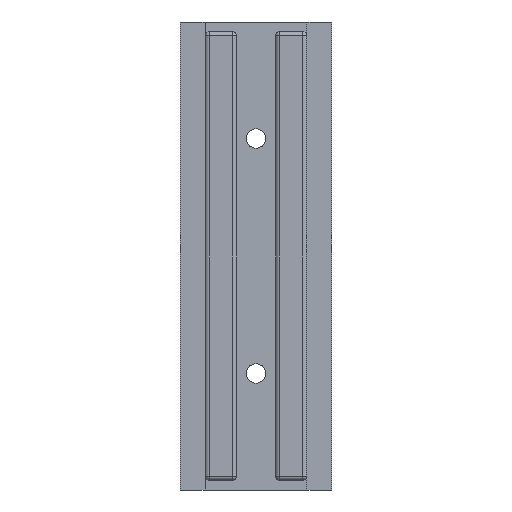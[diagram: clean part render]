
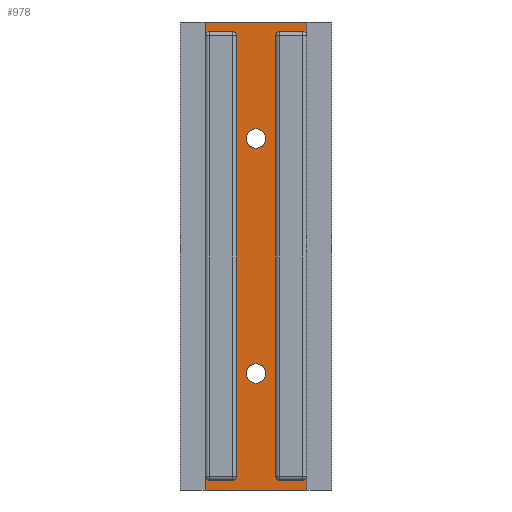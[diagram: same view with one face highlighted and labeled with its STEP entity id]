
A CAD part, front view. The second image highlights one B-rep face of the part: STEP entity #978.
In plain terms, the highlighted planar face has unit normal (0, -1, 0).
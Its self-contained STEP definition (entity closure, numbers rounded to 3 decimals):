
#106 = DIRECTION ( 'NONE',  ( 0., 0., -1. ) ) ;
#289 = EDGE_CURVE ( 'Defeatured_0_103+Defeatured_0_39+Defeatured_0_101+Defeatured_0_101', #10463, #4058, #8419, .T. ) ;
#815 = AXIS2_PLACEMENT_3D ( 'NONE', #3866, #7430, #106 ) ;
#843 = VERTEX_POINT ( 'NONE', #9767 ) ;
#973 = CARTESIAN_POINT ( 'NONE',  ( -13., -6., -119.5 ) ) ;
#978 = ADVANCED_FACE ( 'Defeatured_0_39', ( #4629, #12033, #3711 ), #6338, .T. ) ;
#1259 = DIRECTION ( 'NONE',  ( 1., 0., 0. ) ) ;
#1443 = CARTESIAN_POINT ( 'NONE',  ( 13., -6., 0. ) ) ;
#1592 = EDGE_LOOP ( 'NONE', ( #8975, #3467 ) ) ;
#1866 = AXIS2_PLACEMENT_3D ( 'NONE', #3502, #5386, #6267 ) ;
#1907 = AXIS2_PLACEMENT_3D ( 'NONE', #2762, #4526, #6397 ) ;
#2029 = CARTESIAN_POINT ( 'NONE',  ( 13., -6., 0. ) ) ;
#2166 = LINE ( 'NONE', #5867, #11847 ) ;
#2477 = VERTEX_POINT ( 'NONE', #7257 ) ;
#2556 = CARTESIAN_POINT ( 'NONE',  ( 0., -6., -27.25 ) ) ;
#2762 = CARTESIAN_POINT ( 'NONE',  ( 13., -6., -119.5 ) ) ;
#2829 = DIRECTION ( 'NONE',  ( 0., 0., 1. ) ) ;
#2978 = VECTOR ( 'NONE', #2829, 1000. ) ;
#3372 = EDGE_LOOP ( 'NONE', ( #10311, #5531 ) ) ;
#3418 = DIRECTION ( 'NONE',  ( 0., -1., 0. ) ) ;
#3467 = ORIENTED_EDGE ( 'NONE', *, *, #289, .F. ) ;
#3502 = CARTESIAN_POINT ( 'NONE',  ( 0., -6., -89.75 ) ) ;
#3569 = EDGE_CURVE ( 'Defeatured_0_101+Defeatured_0_39+Defeatured_0_103+Defeatured_0_103', #4058, #10463, #10308, .T. ) ;
#3629 = ORIENTED_EDGE ( 'NONE', *, *, #6371, .T. ) ;
#3711 = FACE_OUTER_BOUND ( 'NONE', #9713, .T. ) ;
#3830 = CARTESIAN_POINT ( 'NONE',  ( 0., -6., -32.25 ) ) ;
#3866 = CARTESIAN_POINT ( 'NONE',  ( 0., -6., -29.75 ) ) ;
#3937 = CIRCLE ( 'NONE', #6619, 2.5 ) ;
#4058 = VERTEX_POINT ( 'NONE', #2556 ) ;
#4232 = CARTESIAN_POINT ( 'NONE',  ( 0., -6., -89.75 ) ) ;
#4244 = LINE ( 'NONE', #1443, #7581 ) ;
#4425 = ORIENTED_EDGE ( 'NONE', *, *, #9361, .F. ) ;
#4526 = DIRECTION ( 'NONE',  ( 0., -1., 0. ) ) ;
#4629 = FACE_BOUND ( 'NONE', #1592, .T. ) ;
#4814 = VERTEX_POINT ( 'NONE', #6214 ) ;
#4928 = DIRECTION ( 'NONE',  ( 0., -1., 0. ) ) ;
#4954 = DIRECTION ( 'NONE',  ( 0., 0., 1. ) ) ;
#5007 = LINE ( 'NONE', #7851, #7058 ) ;
#5096 = EDGE_CURVE ( 'Defeatured_0_6+Defeatured_0_39+Defeatured_0_9+Defeatured_0_11', #4814, #9404, #9098, .T. ) ;
#5386 = DIRECTION ( 'NONE',  ( 0., -1., 0. ) ) ;
#5531 = ORIENTED_EDGE ( 'NONE', *, *, #8902, .F. ) ;
#5867 = CARTESIAN_POINT ( 'NONE',  ( 13., -6., -119.5 ) ) ;
#6214 = CARTESIAN_POINT ( 'NONE',  ( -13., -6., -119.5 ) ) ;
#6267 = DIRECTION ( 'NONE',  ( 0., 0., -1. ) ) ;
#6295 = CARTESIAN_POINT ( 'NONE',  ( 0., -6., -29.75 ) ) ;
#6338 = PLANE ( 'NONE',  #1907 ) ;
#6371 = EDGE_CURVE ( 'Defeatured_0_39+Defeatured_0_0+Defeatured_0_38+Defeatured_0_37', #2477, #11044, #2166, .T. ) ;
#6397 = DIRECTION ( 'NONE',  ( 0., 0., -1. ) ) ;
#6477 = CARTESIAN_POINT ( 'NONE',  ( 0., -6., -87.25 ) ) ;
#6619 = AXIS2_PLACEMENT_3D ( 'NONE', #4232, #4928, #10671 ) ;
#7058 = VECTOR ( 'NONE', #8025, 1000. ) ;
#7257 = CARTESIAN_POINT ( 'NONE',  ( 13., -6., -119.5 ) ) ;
#7430 = DIRECTION ( 'NONE',  ( 0., -1., 0. ) ) ;
#7496 = CARTESIAN_POINT ( 'NONE',  ( -13., -6., 0. ) ) ;
#7581 = VECTOR ( 'NONE', #1259, 1000. ) ;
#7851 = CARTESIAN_POINT ( 'NONE',  ( 13., -6., -119.5 ) ) ;
#8025 = DIRECTION ( 'NONE',  ( 1., 0., 0. ) ) ;
#8125 = CIRCLE ( 'NONE', #1866, 2.5 ) ;
#8419 = CIRCLE ( 'NONE', #815, 2.5 ) ;
#8902 = EDGE_CURVE ( 'Defeatured_0_89+Defeatured_0_39+Defeatured_0_87+Defeatured_0_87', #843, #11243, #8125, .T. ) ;
#8975 = ORIENTED_EDGE ( 'NONE', *, *, #3569, .F. ) ;
#9098 = LINE ( 'NONE', #973, #2978 ) ;
#9361 = EDGE_CURVE ( 'Defeatured_0_37+Defeatured_0_39+Defeatured_0_11+Defeatured_0_3', #9404, #11044, #4244, .T. ) ;
#9404 = VERTEX_POINT ( 'NONE', #7496 ) ;
#9514 = AXIS2_PLACEMENT_3D ( 'NONE', #6295, #3418, #10803 ) ;
#9713 = EDGE_LOOP ( 'NONE', ( #4425, #10649, #9813, #3629 ) ) ;
#9767 = CARTESIAN_POINT ( 'NONE',  ( 0., -6., -92.25 ) ) ;
#9813 = ORIENTED_EDGE ( 'NONE', *, *, #11180, .T. ) ;
#10308 = CIRCLE ( 'NONE', #9514, 2.5 ) ;
#10311 = ORIENTED_EDGE ( 'NONE', *, *, #10555, .F. ) ;
#10463 = VERTEX_POINT ( 'NONE', #3830 ) ;
#10555 = EDGE_CURVE ( 'Defeatured_0_87+Defeatured_0_39+Defeatured_0_89+Defeatured_0_89', #11243, #843, #3937, .T. ) ;
#10649 = ORIENTED_EDGE ( 'NONE', *, *, #5096, .F. ) ;
#10671 = DIRECTION ( 'NONE',  ( 0., 0., -1. ) ) ;
#10803 = DIRECTION ( 'NONE',  ( 0., 0., -1. ) ) ;
#11044 = VERTEX_POINT ( 'NONE', #2029 ) ;
#11180 = EDGE_CURVE ( 'Defeatured_0_39+Defeatured_0_38+Defeatured_0_6+Defeatured_0_0', #4814, #2477, #5007, .T. ) ;
#11243 = VERTEX_POINT ( 'NONE', #6477 ) ;
#11847 = VECTOR ( 'NONE', #4954, 1000. ) ;
#12033 = FACE_BOUND ( 'NONE', #3372, .T. ) ;
